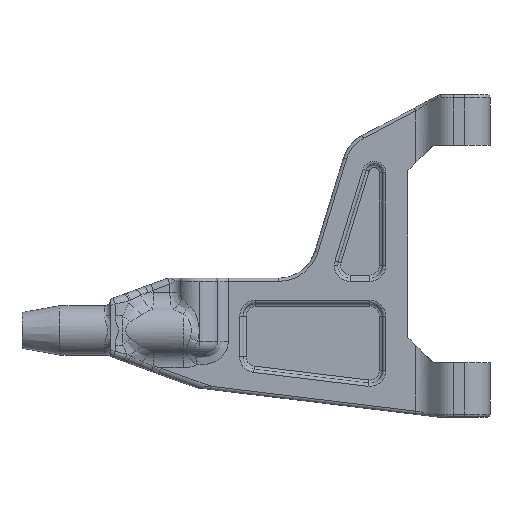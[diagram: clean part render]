
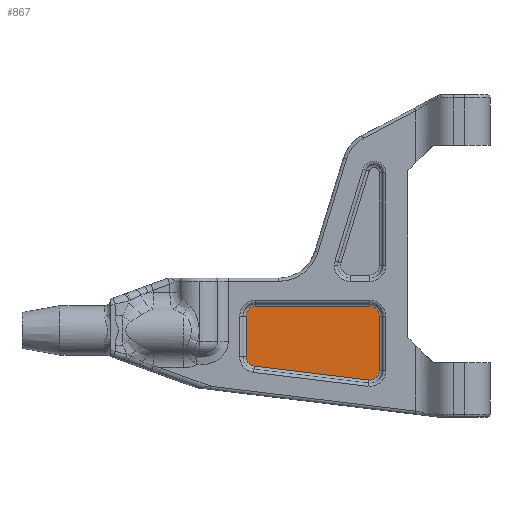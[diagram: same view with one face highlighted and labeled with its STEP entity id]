
A CAD part, top view. The second image highlights one B-rep face of the part: STEP entity #867.
In plain terms, the highlighted planar face has unit normal (0, 0, 1).
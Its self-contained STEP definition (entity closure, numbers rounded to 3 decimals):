
#91 = CARTESIAN_POINT ( 'NONE',  ( -0.027, -0.226, -0.5 ) ) ;
#174 = CARTESIAN_POINT ( 'NONE',  ( 44.753, -5.654, -0.5 ) ) ;
#181 = ORIENTED_EDGE ( 'NONE', *, *, #2267, .T. ) ;
#222 = CARTESIAN_POINT ( 'NONE',  ( 62.82, -7.844, -0.5 ) ) ;
#250 = EDGE_LOOP ( 'NONE', ( #910, #2302, #3237, #3542, #618, #181, #4998, #2007 ) ) ;
#257 = CIRCLE ( 'NONE', #5775, 1.5 ) ;
#301 = EDGE_CURVE ( 'NONE', #834, #1760, #1405, .T. ) ;
#496 = CARTESIAN_POINT ( 'NONE',  ( 64.5, 2.252, -0.5 ) ) ;
#525 = DIRECTION ( 'NONE',  ( 0., 0., 1. ) ) ;
#618 = ORIENTED_EDGE ( 'NONE', *, *, #2665, .T. ) ;
#746 = FACE_OUTER_BOUND ( 'NONE', #250, .T. ) ;
#763 = DIRECTION ( 'NONE',  ( 0., 0., 1. ) ) ;
#834 = VERTEX_POINT ( 'NONE', #2845 ) ;
#842 = AXIS2_PLACEMENT_3D ( 'NONE', #1326, #763, #4153 ) ;
#858 = DIRECTION ( 'NONE',  ( 0., 0., 1. ) ) ;
#867 = ADVANCED_FACE ( 'NONE', ( #746 ), #3323, .T. ) ;
#910 = ORIENTED_EDGE ( 'NONE', *, *, #5568, .T. ) ;
#1047 = CARTESIAN_POINT ( 'NONE',  ( 63., -6.355, -0.5 ) ) ;
#1144 = LINE ( 'NONE', #5432, #5800 ) ;
#1284 = CIRCLE ( 'NONE', #842, 1.5 ) ;
#1309 = CARTESIAN_POINT ( 'NONE',  ( 63., 2.252, -0.5 ) ) ;
#1326 = CARTESIAN_POINT ( 'NONE',  ( 44.933, -4.165, -0.5 ) ) ;
#1351 = AXIS2_PLACEMENT_3D ( 'NONE', #1047, #5245, #2061 ) ;
#1405 = CIRCLE ( 'NONE', #2342, 1.5 ) ;
#1462 = CARTESIAN_POINT ( 'NONE',  ( 0., 0., -0.5 ) ) ;
#1684 = DIRECTION ( 'NONE',  ( -1., 0., 0. ) ) ;
#1727 = VERTEX_POINT ( 'NONE', #2705 ) ;
#1760 = VERTEX_POINT ( 'NONE', #4553 ) ;
#1959 = DIRECTION ( 'NONE',  ( 1., 0., 0. ) ) ;
#1970 = DIRECTION ( 'NONE',  ( 1., 0., 0. ) ) ;
#2007 = ORIENTED_EDGE ( 'NONE', *, *, #2936, .T. ) ;
#2040 = EDGE_CURVE ( 'NONE', #4639, #2280, #1284, .T. ) ;
#2061 = DIRECTION ( 'NONE',  ( 1., 0., 0. ) ) ;
#2202 = CARTESIAN_POINT ( 'NONE',  ( 43.433, -4.165, -0.5 ) ) ;
#2267 = EDGE_CURVE ( 'NONE', #4755, #1727, #2477, .T. ) ;
#2279 = DIRECTION ( 'NONE',  ( 0., 1., 0. ) ) ;
#2280 = VERTEX_POINT ( 'NONE', #174 ) ;
#2302 = ORIENTED_EDGE ( 'NONE', *, *, #301, .T. ) ;
#2342 = AXIS2_PLACEMENT_3D ( 'NONE', #2474, #5692, #1970 ) ;
#2450 = DIRECTION ( 'NONE',  ( 0., -1., 0. ) ) ;
#2474 = CARTESIAN_POINT ( 'NONE',  ( 44.933, 2.252, -0.5 ) ) ;
#2477 = CIRCLE ( 'NONE', #1351, 1.5 ) ;
#2665 = EDGE_CURVE ( 'NONE', #2280, #4755, #2696, .T. ) ;
#2696 = LINE ( 'NONE', #91, #4363 ) ;
#2705 = CARTESIAN_POINT ( 'NONE',  ( 64.5, -6.355, -0.5 ) ) ;
#2822 = VERTEX_POINT ( 'NONE', #4455 ) ;
#2845 = CARTESIAN_POINT ( 'NONE',  ( 44.933, 3.752, -0.5 ) ) ;
#2936 = EDGE_CURVE ( 'NONE', #5947, #2822, #257, .T. ) ;
#3237 = ORIENTED_EDGE ( 'NONE', *, *, #4714, .T. ) ;
#3304 = DIRECTION ( 'NONE',  ( 0.993, -0.12, 0. ) ) ;
#3323 = PLANE ( 'NONE',  #4530 ) ;
#3542 = ORIENTED_EDGE ( 'NONE', *, *, #2040, .T. ) ;
#3616 = LINE ( 'NONE', #5397, #5572 ) ;
#3642 = LINE ( 'NONE', #4745, #4253 ) ;
#4153 = DIRECTION ( 'NONE',  ( 1., 0., 0. ) ) ;
#4253 = VECTOR ( 'NONE', #2450, 1000. ) ;
#4363 = VECTOR ( 'NONE', #3304, 1000. ) ;
#4455 = CARTESIAN_POINT ( 'NONE',  ( 63., 3.752, -0.5 ) ) ;
#4530 = AXIS2_PLACEMENT_3D ( 'NONE', #1462, #525, #1959 ) ;
#4553 = CARTESIAN_POINT ( 'NONE',  ( 43.433, 2.252, -0.5 ) ) ;
#4568 = DIRECTION ( 'NONE',  ( 1., 0., 0. ) ) ;
#4639 = VERTEX_POINT ( 'NONE', #2202 ) ;
#4714 = EDGE_CURVE ( 'NONE', #1760, #4639, #3642, .T. ) ;
#4745 = CARTESIAN_POINT ( 'NONE',  ( 43.433, 0., -0.5 ) ) ;
#4755 = VERTEX_POINT ( 'NONE', #222 ) ;
#4998 = ORIENTED_EDGE ( 'NONE', *, *, #5166, .T. ) ;
#5166 = EDGE_CURVE ( 'NONE', #1727, #5947, #1144, .T. ) ;
#5245 = DIRECTION ( 'NONE',  ( 0., 0., 1. ) ) ;
#5397 = CARTESIAN_POINT ( 'NONE',  ( 0., 3.752, -0.5 ) ) ;
#5432 = CARTESIAN_POINT ( 'NONE',  ( 64.5, 0., -0.5 ) ) ;
#5568 = EDGE_CURVE ( 'NONE', #2822, #834, #3616, .T. ) ;
#5572 = VECTOR ( 'NONE', #1684, 1000. ) ;
#5692 = DIRECTION ( 'NONE',  ( 0., 0., 1. ) ) ;
#5775 = AXIS2_PLACEMENT_3D ( 'NONE', #1309, #858, #4568 ) ;
#5800 = VECTOR ( 'NONE', #2279, 1000. ) ;
#5947 = VERTEX_POINT ( 'NONE', #496 ) ;
